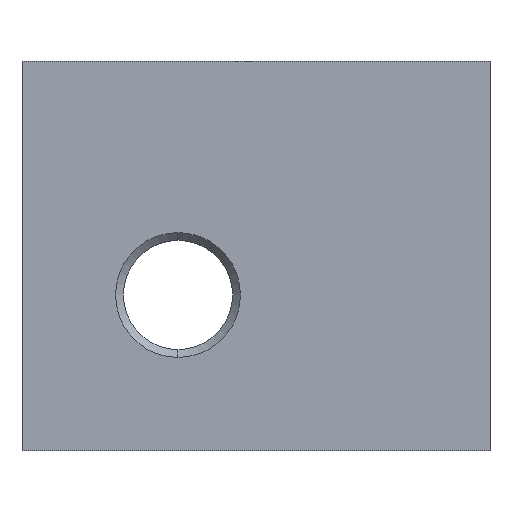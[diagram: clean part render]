
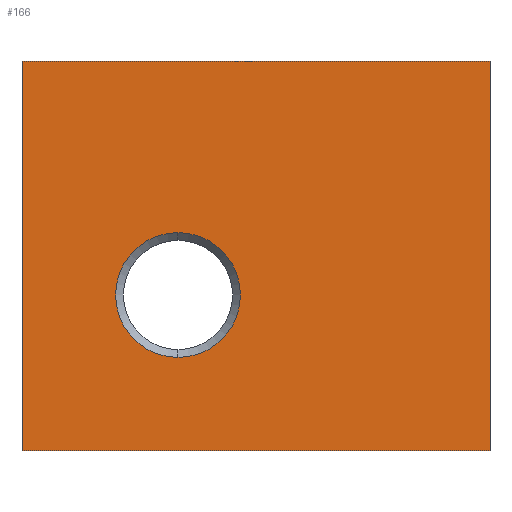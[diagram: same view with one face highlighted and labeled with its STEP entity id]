
A CAD part, left-side view. The second image highlights one B-rep face of the part: STEP entity #166.
In plain terms, the highlighted planar face has unit normal (-1, 0, 0).
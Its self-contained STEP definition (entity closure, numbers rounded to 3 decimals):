
#10 = VECTOR ( 'NONE', #555, 1000. ) ;
#18 = DIRECTION ( 'NONE',  ( 0., 0., 1. ) ) ;
#21 = DIRECTION ( 'NONE',  ( 1., 0., 0. ) ) ;
#22 = AXIS2_PLACEMENT_3D ( 'NONE', #111, #21, #18 ) ;
#25 = EDGE_LOOP ( 'NONE', ( #619, #602, #575, #87 ) ) ;
#32 = CIRCLE ( 'NONE', #482, 4. ) ;
#36 = CARTESIAN_POINT ( 'NONE',  ( -15., 15., 75. ) ) ;
#51 = VERTEX_POINT ( 'NONE', #223 ) ;
#74 = FACE_OUTER_BOUND ( 'NONE', #25, .T. ) ;
#87 = ORIENTED_EDGE ( 'NONE', *, *, #400, .T. ) ;
#111 = CARTESIAN_POINT ( 'NONE',  ( -15., 5., 85. ) ) ;
#132 = CIRCLE ( 'NONE', #22, 4. ) ;
#147 = CARTESIAN_POINT ( 'NONE',  ( -15., 15., 100. ) ) ;
#161 = VERTEX_POINT ( 'NONE', #280 ) ;
#166 = ADVANCED_FACE ( 'NONE', ( #374, #74 ), #587, .T. ) ;
#203 = AXIS2_PLACEMENT_3D ( 'NONE', #36, #536, #493 ) ;
#206 = LINE ( 'NONE', #467, #570 ) ;
#211 = ORIENTED_EDGE ( 'NONE', *, *, #322, .T. ) ;
#214 = DIRECTION ( 'NONE',  ( 0., 0., 1. ) ) ;
#223 = CARTESIAN_POINT ( 'NONE',  ( -15., 5., 89. ) ) ;
#247 = VERTEX_POINT ( 'NONE', #443 ) ;
#253 = VERTEX_POINT ( 'NONE', #294 ) ;
#254 = DIRECTION ( 'NONE',  ( 0., -1., 0. ) ) ;
#256 = EDGE_CURVE ( 'NONE', #161, #296, #601, .T. ) ;
#257 = CARTESIAN_POINT ( 'NONE',  ( -15., 15., 75. ) ) ;
#261 = LINE ( 'NONE', #257, #537 ) ;
#280 = CARTESIAN_POINT ( 'NONE',  ( -15., 15., 100. ) ) ;
#290 = CARTESIAN_POINT ( 'NONE',  ( -15., -15., 100. ) ) ;
#294 = CARTESIAN_POINT ( 'NONE',  ( -15., 5., 81. ) ) ;
#296 = VERTEX_POINT ( 'NONE', #290 ) ;
#322 = EDGE_CURVE ( 'NONE', #253, #51, #32, .T. ) ;
#334 = DIRECTION ( 'NONE',  ( 0., 0., 1. ) ) ;
#372 = EDGE_CURVE ( 'NONE', #247, #161, #206, .T. ) ;
#374 = FACE_BOUND ( 'NONE', #564, .T. ) ;
#393 = ORIENTED_EDGE ( 'NONE', *, *, #445, .T. ) ;
#400 = EDGE_CURVE ( 'NONE', #463, #296, #462, .T. ) ;
#401 = DIRECTION ( 'NONE',  ( 1., 0., 0. ) ) ;
#423 = EDGE_CURVE ( 'NONE', #247, #463, #261, .T. ) ;
#443 = CARTESIAN_POINT ( 'NONE',  ( -15., 15., 75. ) ) ;
#445 = EDGE_CURVE ( 'NONE', #51, #253, #132, .T. ) ;
#448 = CARTESIAN_POINT ( 'NONE',  ( -15., 5., 85. ) ) ;
#460 = CARTESIAN_POINT ( 'NONE',  ( -15., -15., 75. ) ) ;
#462 = LINE ( 'NONE', #515, #655 ) ;
#463 = VERTEX_POINT ( 'NONE', #460 ) ;
#467 = CARTESIAN_POINT ( 'NONE',  ( -15., 15., 75. ) ) ;
#482 = AXIS2_PLACEMENT_3D ( 'NONE', #448, #401, #334 ) ;
#493 = DIRECTION ( 'NONE',  ( 0., 0., 1. ) ) ;
#515 = CARTESIAN_POINT ( 'NONE',  ( -15., -15., 75. ) ) ;
#536 = DIRECTION ( 'NONE',  ( -1., 0., 0. ) ) ;
#537 = VECTOR ( 'NONE', #254, 1000. ) ;
#555 = DIRECTION ( 'NONE',  ( 0., -1., 0. ) ) ;
#564 = EDGE_LOOP ( 'NONE', ( #393, #211 ) ) ;
#570 = VECTOR ( 'NONE', #214, 1000. ) ;
#575 = ORIENTED_EDGE ( 'NONE', *, *, #423, .T. ) ;
#587 = PLANE ( 'NONE',  #203 ) ;
#601 = LINE ( 'NONE', #147, #10 ) ;
#602 = ORIENTED_EDGE ( 'NONE', *, *, #372, .F. ) ;
#619 = ORIENTED_EDGE ( 'NONE', *, *, #256, .F. ) ;
#625 = DIRECTION ( 'NONE',  ( 0., 0., 1. ) ) ;
#655 = VECTOR ( 'NONE', #625, 1000. ) ;
